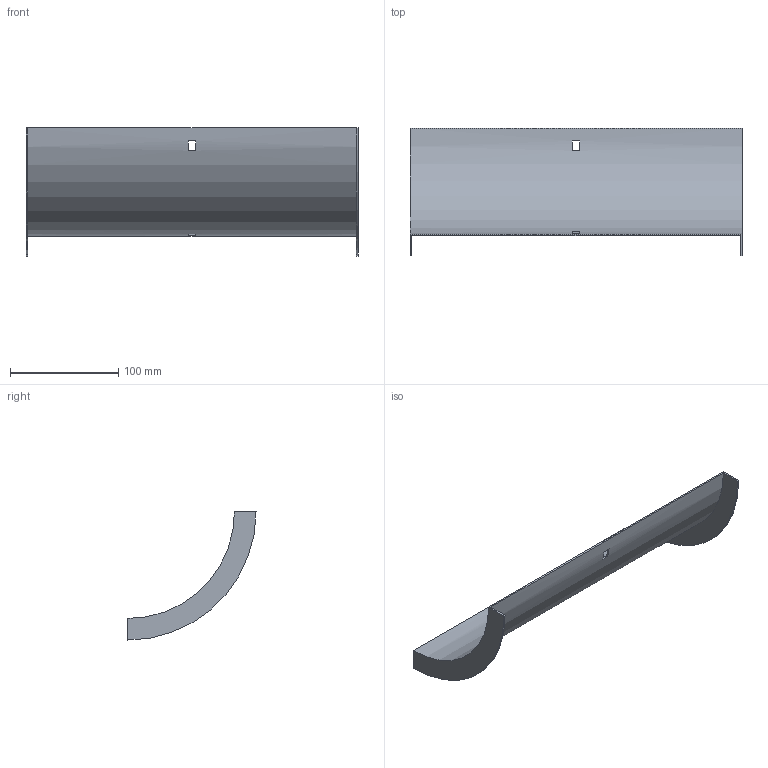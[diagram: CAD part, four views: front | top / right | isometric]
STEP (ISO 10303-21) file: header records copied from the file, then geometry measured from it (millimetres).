
FILE_DESCRIPTION (( 'STEP AP214' ), '1' );
FILE_NAME ('30N1R300.step', '2025-02-21T09:24:04', ( '' ), ( '' ), 'SwSTEP 2.0', 'SolidWorks 2023', '' );
FILE_SCHEMA (( 'AUTOMOTIVE_DESIGN' ));
Length unit declared in the file: millimetre
Products named in the file (1): 30N1R300
Bounding box: 307 x 118.5 x 118.5 mm (x, y, z)
Volume: 81138.9 mm3; surface area: 109866.5 mm2
Topology: 1 solids, 1 shells, 18 faces, 48 edges, 32 vertices
Faces by surface type: plane 14, cylinder 4
Entity records: 599 total; most frequent: DIRECTION 102, CARTESIAN_POINT 99, ORIENTED_EDGE 96, EDGE_CURVE 48, AXIS2_PLACEMENT_3D 35, VERTEX_POINT 32, LINE 32, VECTOR 32
